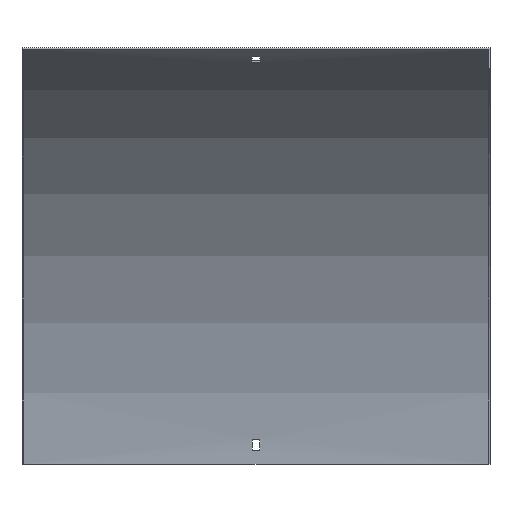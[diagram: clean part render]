
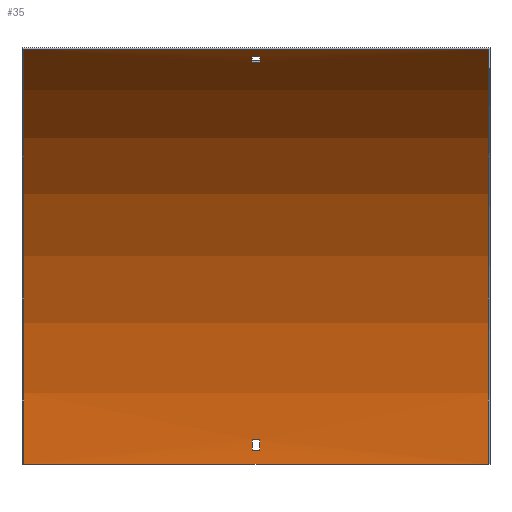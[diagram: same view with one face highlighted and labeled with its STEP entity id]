
A CAD part, front view. The second image highlights one B-rep face of the part: STEP entity #35.
In plain terms, the highlighted cylindrical face has radius 412.5 mm (diameter 825 mm), a partial arc.
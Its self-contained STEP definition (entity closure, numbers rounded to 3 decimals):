
#2 = AXIS2_PLACEMENT_3D ( 'NONE', #179, #229, #273 ) ;
#12 = EDGE_CURVE ( 'NONE', #200, #145, #311, .T. ) ;
#13 = EDGE_CURVE ( 'NONE', #495, #516, #272, .T. ) ;
#21 = DIRECTION ( 'NONE',  ( -1., 0., 0. ) ) ;
#23 = VERTEX_POINT ( 'NONE', #82 ) ;
#30 = DIRECTION ( 'NONE',  ( 1., 0., 0. ) ) ;
#35 = ADVANCED_FACE ( 'NONE', ( #467, #419, #600 ), #227, .F. ) ;
#50 = VECTOR ( 'NONE', #87, 1000. ) ;
#56 = CARTESIAN_POINT ( 'NONE',  ( -3.25, -197.445, 351.084 ) ) ;
#58 = EDGE_CURVE ( 'NONE', #289, #142, #370, .T. ) ;
#82 = CARTESIAN_POINT ( 'NONE',  ( -3.25, -189.831, 346.272 ) ) ;
#87 = DIRECTION ( 'NONE',  ( -1., 0., 0. ) ) ;
#90 = CIRCLE ( 'NONE', #532, 412.5 ) ;
#92 = EDGE_CURVE ( 'NONE', #23, #200, #471, .T. ) ;
#101 = EDGE_CURVE ( 'NONE', #115, #403, #507, .T. ) ;
#109 = CARTESIAN_POINT ( 'NONE',  ( -200., -414., 0. ) ) ;
#115 = VERTEX_POINT ( 'NONE', #509 ) ;
#127 = DIRECTION ( 'NONE',  ( 1., 0., 0. ) ) ;
#130 = ORIENTED_EDGE ( 'NONE', *, *, #435, .F. ) ;
#139 = CIRCLE ( 'NONE', #234, 412.5 ) ;
#142 = VERTEX_POINT ( 'NONE', #253 ) ;
#145 = VERTEX_POINT ( 'NONE', #209 ) ;
#150 = VECTOR ( 'NONE', #466, 1000. ) ;
#155 = VERTEX_POINT ( 'NONE', #167 ) ;
#157 = ORIENTED_EDGE ( 'NONE', *, *, #326, .F. ) ;
#159 = DIRECTION ( 'NONE',  ( 1., 0., 0. ) ) ;
#160 = CIRCLE ( 'NONE', #2, 412.5 ) ;
#167 = CARTESIAN_POINT ( 'NONE',  ( 3.25, -1.675, 12. ) ) ;
#170 = CARTESIAN_POINT ( 'NONE',  ( -3.25, -1.675, 12. ) ) ;
#172 = CARTESIAN_POINT ( 'NONE',  ( 3.25, -414., 0. ) ) ;
#175 = VECTOR ( 'NONE', #375, 1000. ) ;
#179 = CARTESIAN_POINT ( 'NONE',  ( 3.25, -414., 0. ) ) ;
#187 = VERTEX_POINT ( 'NONE', #490 ) ;
#190 = ORIENTED_EDGE ( 'NONE', *, *, #58, .F. ) ;
#200 = VERTEX_POINT ( 'NONE', #56 ) ;
#209 = CARTESIAN_POINT ( 'NONE',  ( 3.25, -197.445, 351.084 ) ) ;
#219 = EDGE_LOOP ( 'NONE', ( #491, #431, #377, #400 ) ) ;
#227 = CYLINDRICAL_SURFACE ( 'NONE', #331, 412.5 ) ;
#229 = DIRECTION ( 'NONE',  ( 1., 0., 0. ) ) ;
#234 = AXIS2_PLACEMENT_3D ( 'NONE', #454, #30, #549 ) ;
#253 = CARTESIAN_POINT ( 'NONE',  ( -3.25, -2.035, 21. ) ) ;
#260 = EDGE_CURVE ( 'NONE', #403, #516, #601, .T. ) ;
#262 = CARTESIAN_POINT ( 'NONE',  ( -200., -1.5, 0. ) ) ;
#263 = DIRECTION ( 'NONE',  ( 1., 0., 0. ) ) ;
#266 = CARTESIAN_POINT ( 'NONE',  ( 200., -1.5, 0. ) ) ;
#267 = CARTESIAN_POINT ( 'NONE',  ( 201.5, -1.675, 12. ) ) ;
#272 = LINE ( 'NONE', #314, #50 ) ;
#273 = DIRECTION ( 'NONE',  ( 0., 0., -1. ) ) ;
#277 = VECTOR ( 'NONE', #462, 1000. ) ;
#278 = CARTESIAN_POINT ( 'NONE',  ( -200., -207.75, 357.235 ) ) ;
#285 = ORIENTED_EDGE ( 'NONE', *, *, #519, .T. ) ;
#289 = VERTEX_POINT ( 'NONE', #594 ) ;
#298 = ORIENTED_EDGE ( 'NONE', *, *, #407, .T. ) ;
#305 = DIRECTION ( 'NONE',  ( 0., 0., 1. ) ) ;
#307 = VERTEX_POINT ( 'NONE', #170 ) ;
#311 = LINE ( 'NONE', #415, #501 ) ;
#314 = CARTESIAN_POINT ( 'NONE',  ( 200., -207.75, 357.235 ) ) ;
#316 = DIRECTION ( 'NONE',  ( 0., 1., 0. ) ) ;
#318 = CARTESIAN_POINT ( 'NONE',  ( 201.5, -189.831, 346.272 ) ) ;
#325 = LINE ( 'NONE', #267, #150 ) ;
#326 = EDGE_CURVE ( 'NONE', #142, #307, #90, .T. ) ;
#328 = CARTESIAN_POINT ( 'NONE',  ( 200., -207.75, 357.235 ) ) ;
#331 = AXIS2_PLACEMENT_3D ( 'NONE', #365, #506, #459 ) ;
#335 = EDGE_LOOP ( 'NONE', ( #157, #190, #130, #556 ) ) ;
#344 = ORIENTED_EDGE ( 'NONE', *, *, #12, .T. ) ;
#359 = CARTESIAN_POINT ( 'NONE',  ( 201.5, -2.035, 21. ) ) ;
#365 = CARTESIAN_POINT ( 'NONE',  ( 201.5, -414., 0. ) ) ;
#370 = LINE ( 'NONE', #359, #583 ) ;
#375 = DIRECTION ( 'NONE',  ( -1., 0., 0. ) ) ;
#377 = ORIENTED_EDGE ( 'NONE', *, *, #388, .T. ) ;
#388 = EDGE_CURVE ( 'NONE', #115, #495, #139, .T. ) ;
#400 = ORIENTED_EDGE ( 'NONE', *, *, #13, .T. ) ;
#401 = DIRECTION ( 'NONE',  ( -1., 0., 0. ) ) ;
#403 = VERTEX_POINT ( 'NONE', #262 ) ;
#407 = EDGE_CURVE ( 'NONE', #145, #187, #498, .T. ) ;
#415 = CARTESIAN_POINT ( 'NONE',  ( 201.5, -197.445, 351.084 ) ) ;
#419 = FACE_OUTER_BOUND ( 'NONE', #219, .T. ) ;
#425 = ORIENTED_EDGE ( 'NONE', *, *, #92, .T. ) ;
#431 = ORIENTED_EDGE ( 'NONE', *, *, #101, .F. ) ;
#435 = EDGE_CURVE ( 'NONE', #155, #289, #160, .T. ) ;
#441 = AXIS2_PLACEMENT_3D ( 'NONE', #550, #127, #316 ) ;
#444 = DIRECTION ( 'NONE',  ( 0., 0., -1. ) ) ;
#454 = CARTESIAN_POINT ( 'NONE',  ( 200., -414., 0. ) ) ;
#458 = DIRECTION ( 'NONE',  ( 0., 0., 1. ) ) ;
#459 = DIRECTION ( 'NONE',  ( 0., 0., 1. ) ) ;
#460 = AXIS2_PLACEMENT_3D ( 'NONE', #172, #401, #458 ) ;
#462 = DIRECTION ( 'NONE',  ( -1., 0., 0. ) ) ;
#466 = DIRECTION ( 'NONE',  ( 1., 0., 0. ) ) ;
#467 = FACE_BOUND ( 'NONE', #335, .T. ) ;
#469 = LINE ( 'NONE', #318, #175 ) ;
#471 = CIRCLE ( 'NONE', #441, 412.5 ) ;
#490 = CARTESIAN_POINT ( 'NONE',  ( 3.25, -189.831, 346.272 ) ) ;
#491 = ORIENTED_EDGE ( 'NONE', *, *, #260, .F. ) ;
#495 = VERTEX_POINT ( 'NONE', #328 ) ;
#498 = CIRCLE ( 'NONE', #460, 412.5 ) ;
#499 = EDGE_LOOP ( 'NONE', ( #285, #425, #344, #298 ) ) ;
#501 = VECTOR ( 'NONE', #263, 1000. ) ;
#506 = DIRECTION ( 'NONE',  ( -1., 0., 0. ) ) ;
#507 = LINE ( 'NONE', #266, #277 ) ;
#509 = CARTESIAN_POINT ( 'NONE',  ( 200., -1.5, 0. ) ) ;
#516 = VERTEX_POINT ( 'NONE', #278 ) ;
#519 = EDGE_CURVE ( 'NONE', #187, #23, #469, .T. ) ;
#532 = AXIS2_PLACEMENT_3D ( 'NONE', #588, #21, #305 ) ;
#544 = EDGE_CURVE ( 'NONE', #307, #155, #325, .T. ) ;
#549 = DIRECTION ( 'NONE',  ( 0., 0., -1. ) ) ;
#550 = CARTESIAN_POINT ( 'NONE',  ( -3.25, -414., 0. ) ) ;
#554 = DIRECTION ( 'NONE',  ( -1., 0., 0. ) ) ;
#556 = ORIENTED_EDGE ( 'NONE', *, *, #544, .F. ) ;
#568 = AXIS2_PLACEMENT_3D ( 'NONE', #109, #159, #444 ) ;
#583 = VECTOR ( 'NONE', #554, 1000. ) ;
#588 = CARTESIAN_POINT ( 'NONE',  ( -3.25, -414., 0. ) ) ;
#594 = CARTESIAN_POINT ( 'NONE',  ( 3.25, -2.035, 21. ) ) ;
#600 = FACE_BOUND ( 'NONE', #499, .T. ) ;
#601 = CIRCLE ( 'NONE', #568, 412.5 ) ;
